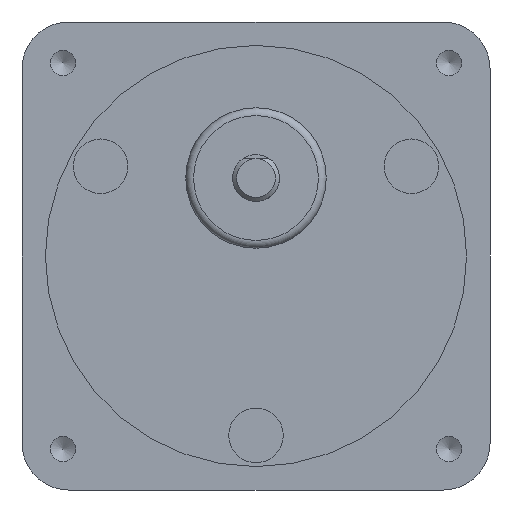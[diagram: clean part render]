
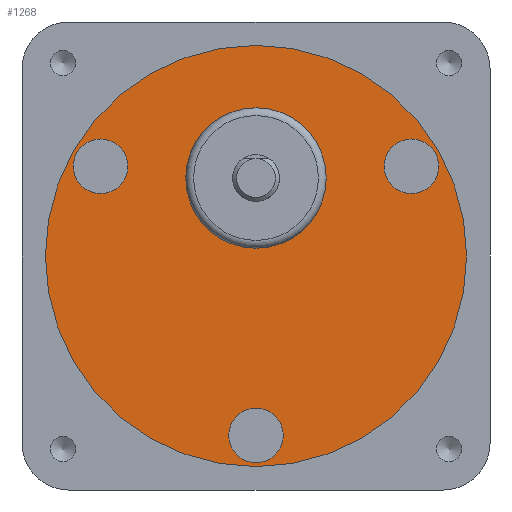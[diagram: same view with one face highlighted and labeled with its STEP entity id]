
A CAD part, front view. The second image highlights one B-rep face of the part: STEP entity #1268.
In plain terms, the highlighted planar face has unit normal (0, -1, 0).
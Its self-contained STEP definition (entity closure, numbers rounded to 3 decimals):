
#123=CARTESIAN_POINT('',(18.169,0.5,14.531));
#124=VERTEX_POINT('',#123);
#125=CARTESIAN_POINT('',(19.919,0.5,11.5));
#126=DIRECTION('',(0.0,1.0,0.0));
#127=DIRECTION('',(0.5,0.0,-0.866));
#128=AXIS2_PLACEMENT_3D('',#125,#126,#127);
#129=CIRCLE('',#128,3.5);
#130=EDGE_CURVE('',#124,#124,#129,.T.);
#160=CARTESIAN_POINT('',(-21.669,0.5,8.469));
#161=VERTEX_POINT('',#160);
#162=CARTESIAN_POINT('',(-19.919,0.5,11.5));
#163=DIRECTION('',(0.0,1.,0.0));
#164=DIRECTION('',(0.5,0.0,0.866));
#165=AXIS2_PLACEMENT_3D('',#162,#163,#164);
#166=CIRCLE('',#165,3.5);
#167=EDGE_CURVE('',#161,#161,#166,.T.);
#197=CARTESIAN_POINT('',(3.5,0.5,-23.));
#198=VERTEX_POINT('',#197);
#199=CARTESIAN_POINT('',(0.0,0.5,-23.));
#200=DIRECTION('',(0.0,1.0,0.0));
#201=DIRECTION('',(-1.0,0.0,0.0));
#202=AXIS2_PLACEMENT_3D('',#199,#200,#201);
#203=CIRCLE('',#202,3.5);
#204=EDGE_CURVE('',#198,#198,#203,.T.);
#1217=CARTESIAN_POINT('',(27.0,0.5,0.));
#1218=VERTEX_POINT('',#1217);
#1219=CARTESIAN_POINT('',(0.0,0.5,0.0));
#1220=DIRECTION('',(0.0,-1.0,0.0));
#1221=DIRECTION('',(-1.0,0.0,0.0));
#1222=AXIS2_PLACEMENT_3D('',#1219,#1220,#1221);
#1223=CIRCLE('',#1222,27.0);
#1224=EDGE_CURVE('',#1218,#1218,#1223,.T.);
#1240=CARTESIAN_POINT('',(0.0,0.5,0.0));
#1241=DIRECTION('',(0.0,1.0,0.0));
#1242=DIRECTION('',(0.0,0.0,1.0));
#1243=AXIS2_PLACEMENT_3D('',#1240,#1241,#1242);
#1244=PLANE('',#1243);
#1245=ORIENTED_EDGE('',*,*,#1224,.T.);
#1246=EDGE_LOOP('',(#1245));
#1247=FACE_OUTER_BOUND('',#1246,.T.);
#1248=ORIENTED_EDGE('',*,*,#130,.T.);
#1249=EDGE_LOOP('',(#1248));
#1250=FACE_BOUND('',#1249,.T.);
#1251=ORIENTED_EDGE('',*,*,#167,.T.);
#1252=EDGE_LOOP('',(#1251));
#1253=FACE_BOUND('',#1252,.T.);
#1254=ORIENTED_EDGE('',*,*,#204,.T.);
#1255=EDGE_LOOP('',(#1254));
#1256=FACE_BOUND('',#1255,.T.);
#1257=CARTESIAN_POINT('',(9.0,0.5,10.0));
#1258=VERTEX_POINT('',#1257);
#1259=CARTESIAN_POINT('',(0.0,0.5,10.0));
#1260=DIRECTION('',(0.0,-1.0,0.0));
#1261=DIRECTION('',(-1.0,0.0,0.0));
#1262=AXIS2_PLACEMENT_3D('',#1259,#1260,#1261);
#1263=CIRCLE('',#1262,9.0);
#1264=EDGE_CURVE('',#1258,#1258,#1263,.T.);
#1265=ORIENTED_EDGE('',*,*,#1264,.F.);
#1266=EDGE_LOOP('',(#1265));
#1267=FACE_BOUND('',#1266,.T.);
#1268=ADVANCED_FACE('',(#1247,#1250,#1253,#1256,#1267),#1244,.F.);
